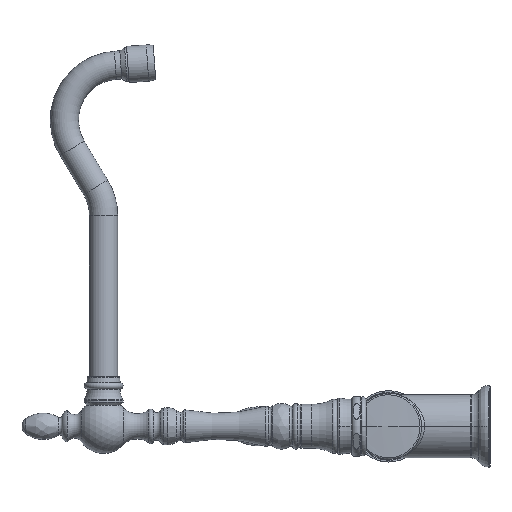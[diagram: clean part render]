
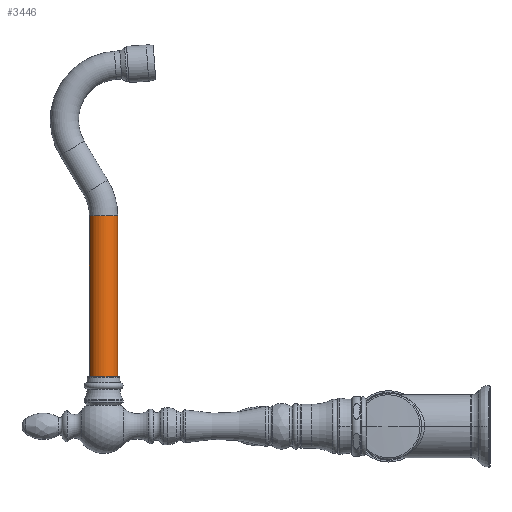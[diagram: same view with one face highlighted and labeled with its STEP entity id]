
A CAD part, left-side view. The second image highlights one B-rep face of the part: STEP entity #3446.
In plain terms, the highlighted cylindrical face has radius 9 mm (diameter 18 mm), a partial arc.
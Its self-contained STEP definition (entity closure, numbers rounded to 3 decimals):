
#3446=ADVANCED_FACE('',(#5127),#3772,.T.);
#3772=CYLINDRICAL_SURFACE('',#28645,9.);
#5127=FACE_OUTER_BOUND('',#6728,.T.);
#6728=EDGE_LOOP('',(#18964,#18965,#18966,#18967));
#9292=LINE('',#50403,#11863);
#9293=LINE('',#50407,#11864);
#11863=VECTOR('',#35371,1.);
#11864=VECTOR('',#35374,1.);
#18964=ORIENTED_EDGE('',*,*,#25487,.T.);
#18965=ORIENTED_EDGE('',*,*,#25488,.F.);
#18966=ORIENTED_EDGE('',*,*,#25489,.F.);
#18967=ORIENTED_EDGE('',*,*,#25486,.T.);
#21805=VERTEX_POINT('',#50399);
#21806=VERTEX_POINT('',#50400);
#21807=VERTEX_POINT('',#50404);
#21808=VERTEX_POINT('',#50406);
#25486=EDGE_CURVE('',#21806,#21805,#26488,.T.);
#25487=EDGE_CURVE('',#21805,#21807,#9292,.T.);
#25488=EDGE_CURVE('',#21808,#21807,#26489,.T.);
#25489=EDGE_CURVE('',#21806,#21808,#9293,.T.);
#26488=CIRCLE('',#28642,9.);
#26489=CIRCLE('',#28644,9.);
#28642=AXIS2_PLACEMENT_3D('',#50401,#35367,#35368);
#28644=AXIS2_PLACEMENT_3D('',#50405,#35372,#35373);
#28645=AXIS2_PLACEMENT_3D('',#50408,#35375,#35376);
#35367=DIRECTION('',(0.,0.,1.));
#35368=DIRECTION('',(0.,1.,0.));
#35371=DIRECTION('',(0.,0.,1.));
#35372=DIRECTION('',(0.,0.,1.));
#35373=DIRECTION('',(0.,1.,0.));
#35374=DIRECTION('',(0.,0.,1.));
#35375=DIRECTION('',(0.,0.,1.));
#35376=DIRECTION('',(0.,-1.,0.));
#50399=CARTESIAN_POINT('',(-6.5,172.7,17.));
#50400=CARTESIAN_POINT('',(-6.5,190.7,17.));
#50401=CARTESIAN_POINT('',(-6.5,181.7,17.));
#50403=CARTESIAN_POINT('',(-6.5,172.7,17.));
#50404=CARTESIAN_POINT('',(-6.5,172.7,134.265));
#50405=CARTESIAN_POINT('',(-6.5,181.7,134.265));
#50406=CARTESIAN_POINT('',(-6.5,190.7,134.265));
#50407=CARTESIAN_POINT('',(-6.5,190.7,17.));
#50408=CARTESIAN_POINT('',(-6.5,181.7,17.));
